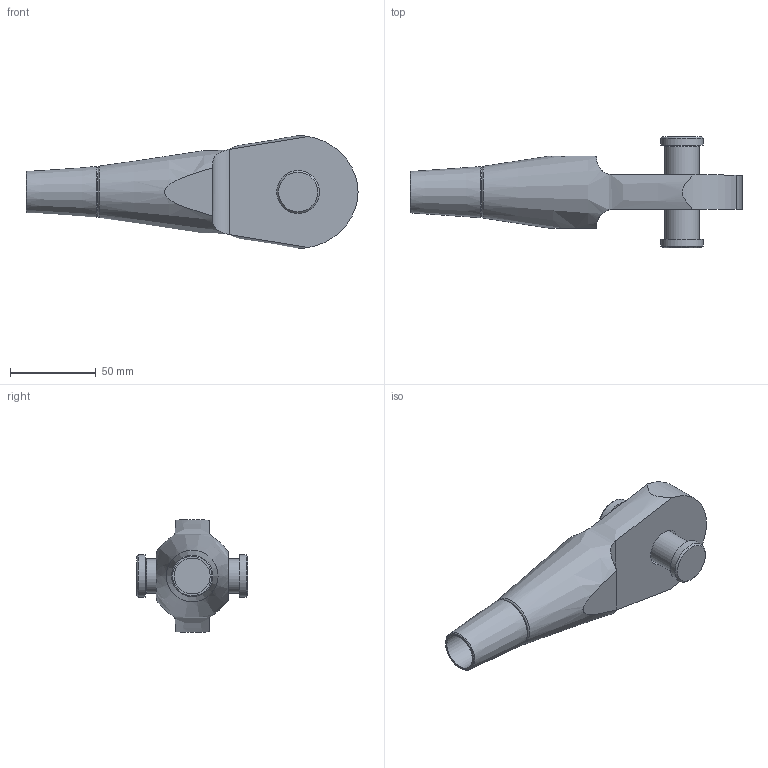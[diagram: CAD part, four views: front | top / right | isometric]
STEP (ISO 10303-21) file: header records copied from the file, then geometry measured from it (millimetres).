
FILE_DESCRIPTION(/* description */ (''),/* implementation_level */ '2;1');
FILE_NAME(/* name */ 'G:\Engineering\700 CAD\Internet-PX-1-step-igs-dxf\520-OES-Arbeitsdateien\520-020-OES.stp',/* time_stamp */ '2020-06-26T10:10:35+02:00',/* author */ ('schwarz'),/* organization */ (''),/* preprocessor_version */ 'ST-DEVELOPER v16.1',/* originating_system */ 'Autodesk Inventor 2016',/* authorisation */ '');
FILE_SCHEMA (('AUTOMOTIVE_DESIGN { 1 0 10303 214 3 1 1 }'));
Length unit declared in the file: centimetre
Products named in the file (1): 520-020-OES-KMU-Kunde
Bounding box: 194 x 65.22 x 66.02 mm (x, y, z)
Volume: 208063.7 mm3; surface area: 35241.3 mm2
Topology: 2 solids, 3 shells, 49 faces, 105 edges, 68 vertices
Faces by surface type: plane 23, cylinder 14, cone 10, torus 2
Full cylindrical faces by diameter (mm): 4.917 x1, 6 x1, 6.8 x1, 12 x1, 20 x1, 21 x1, 22 x1, 25 x2
Entity records: 1341 total; most frequent: CARTESIAN_POINT 292, DIRECTION 204, ORIENTED_EDGE 158, AXIS2_PLACEMENT_3D 89, EDGE_CURVE 79, EDGE_LOOP 78, VERTEX_POINT 63, STYLED_ITEM 51
